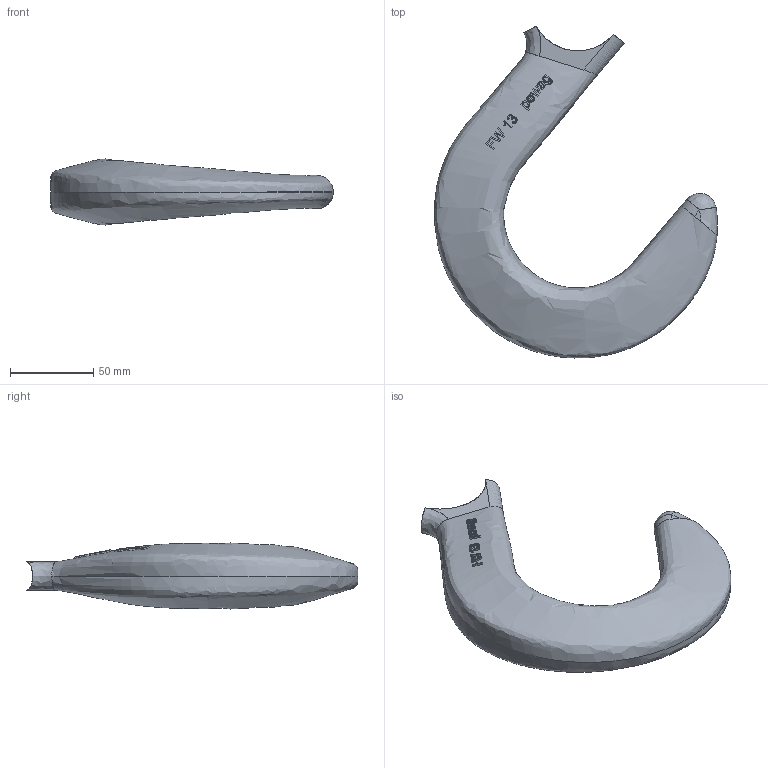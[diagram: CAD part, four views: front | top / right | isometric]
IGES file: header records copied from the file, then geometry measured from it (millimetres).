
Global section: file name: L:\users\SC\3D Kundenmodelle\UG Zg der Ableitung G100\FW Kundenmodell\FW 13 Kundenmodell\pewag_FW_13.igs; native system: NX V4.0; preprocessor: UGS NX IGES V4.0; date: 20100125.114819; units: millimetre
Bounding box: 169.98 x 199.42 x 39.69 mm (x, y, z)
Surface area: 42365.9 mm2 (no closed solid volume)
Topology: 0 solids, 0 shells, 172 faces, 1007 edges, 1004 vertices
Faces by surface type: bspline 163, offset 9
